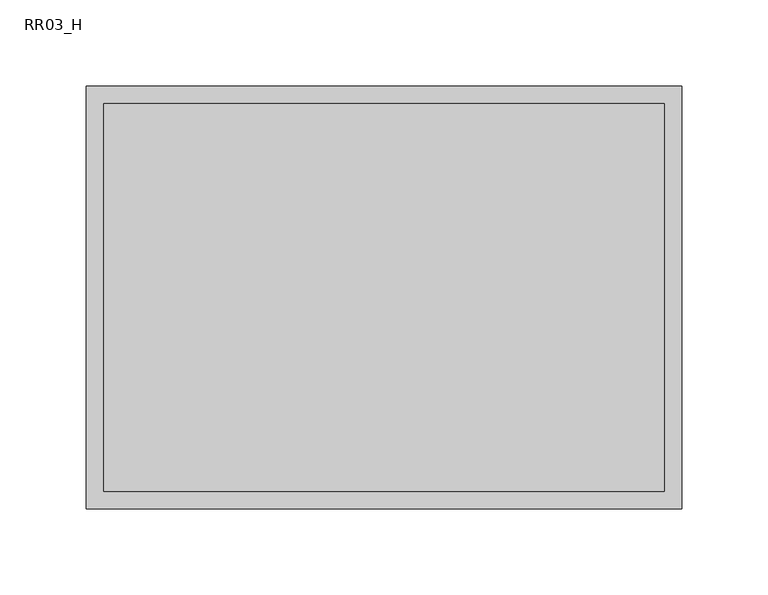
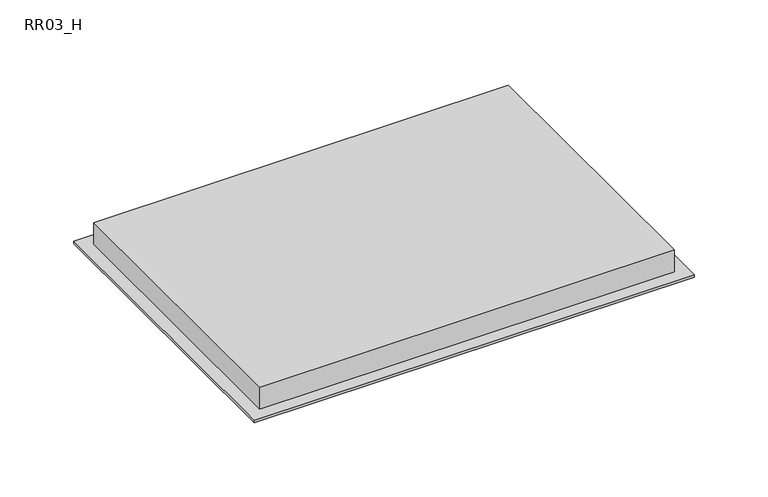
"""IFC4 building model written with IfcOpenShell, lengths in millimetres: air terminal geometry, ZYR_03.06.04.01 Reixa Sostre Retorn : RR03_H."""

from ifc_helpers import new_model, si_unit, origin, origin_with_axes, place, context, project, spatial, polyline, outline, extrude, source, transform, mapped, element, save


def rr03_h_9e348e9b(model_context):
    return source(origin(), model_context, "Body", "SweptSolid", [
        extrude(outline(polyline([(162.5, -112.5), (-162.5, -112.5), (-162.5, 112.5), (162.5, 112.5), (162.5, -112.5)])), origin_with_axes(), (0.0, 0.0, 1.0), 20.0),
        extrude(outline(polyline([(172.5, -122.5), (-172.5, -122.5), (-172.5, 122.5), (172.5, 122.5), (172.5, -122.5)]), holes=[polyline([(162.5, -112.5), (162.5, 112.5), (-162.5, 112.5), (-162.5, -112.5), (162.5, -112.5)])]), origin_with_axes(), (0.0, 0.0, 1.0), 2.0),
    ])


if __name__ == "__main__":
    model = new_model("IFC4")
    model_context = context("Model", 3, world=origin())
    ifc_project = project(units=[si_unit("LENGTHUNIT", "METRE", prefix="MILLI")], contexts=[model_context])
    site = spatial("IfcSite", under=ifc_project)
    building = spatial("IfcBuilding", under=site)
    placement = place(None, origin())
    rr03_h_shape = rr03_h_9e348e9b(model_context)
    element("IfcAirTerminal", 1, ObjectType="ZYR_03.06.04.01 Reixa Sostre Retorn : RR03_H", at=placement, inside=building, context=model_context, shape_type="MappedRepresentation", body=[
        mapped(rr03_h_shape, transform((0.0, 0.0, 0.0), x_axis=(1.0, 0.0, 0.0), y_axis=(0.0, 1.0, 0.0), z_axis=(0.0, 0.0, 1.0))),
    ])
    save(model, "model.ifc")
